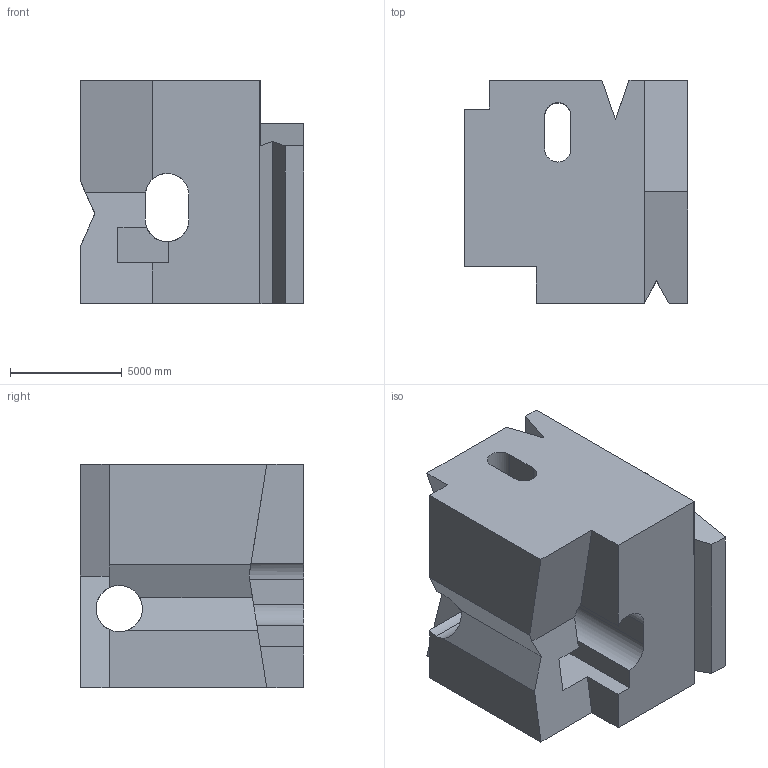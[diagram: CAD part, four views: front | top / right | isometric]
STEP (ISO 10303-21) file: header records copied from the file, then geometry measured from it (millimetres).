
FILE_DESCRIPTION (( 'STEP AP203' ), '1' );
FILE_NAME ('1948.STEP', '2022-08-23T09:50:38', ( 'user' ), ( '' ), 'SwSTEP 2.0', 'SolidWorks 2021', '' );
FILE_SCHEMA (( 'CONFIG_CONTROL_DESIGN' ));
Length unit declared in the file: centimetre
Products named in the file (1): 1948
Bounding box: 10000 x 10000 x 10000 mm (x, y, z)
Volume: 735580915367.2 mm3; surface area: 741663957.1 mm2
Topology: 1 solids, 1 shells, 50 faces, 168 edges, 112 vertices
Faces by surface type: plane 38, cylinder 12
Entity records: 2669 total; most frequent: CARTESIAN_POINT 1144, ORIENTED_EDGE 336, DIRECTION 270, EDGE_CURVE 168, LINE 122, VECTOR 122, VERTEX_POINT 112, AXIS2_PLACEMENT_3D 74
